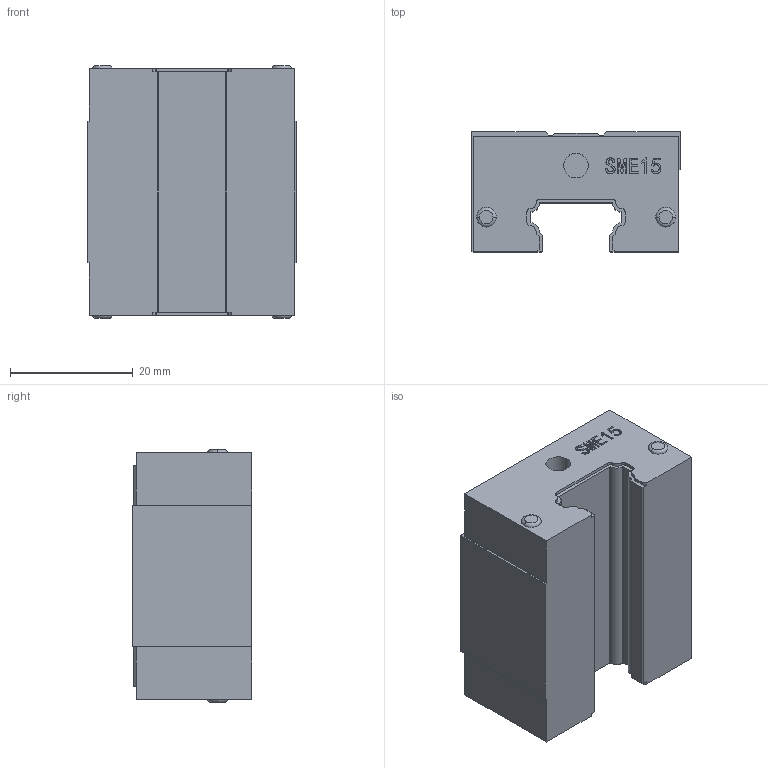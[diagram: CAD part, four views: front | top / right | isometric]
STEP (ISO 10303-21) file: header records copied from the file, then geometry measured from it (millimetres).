
FILE_DESCRIPTION (( 'STEP AP203' ), '1' );
FILE_NAME ('SME15BS.stp', '2019-09-21T00:58:36', ( 'pgos' ), ( '' ), 'SwSTEP 2.0', 'SolidWorks 2014', '' );
FILE_SCHEMA (( 'CONFIG_CONTROL_DESIGN' ));
Length unit declared in the file: millimetre
Products named in the file (1): SME15BS
Bounding box: 34 x 19.5 x 41.1 mm (x, y, z)
Volume: 21480.2 mm3; surface area: 6640.1 mm2
Topology: 1 solids, 1 shells, 196 faces, 533 edges, 354 vertices
Faces by surface type: plane 117, cylinder 53, bspline 18, torus 8
Entity records: 7472 total; most frequent: CARTESIAN_POINT 2430, ORIENTED_EDGE 1066, DIRECTION 985, EDGE_CURVE 533, LINE 367, VECTOR 367, VERTEX_POINT 354, AXIS2_PLACEMENT_3D 309
